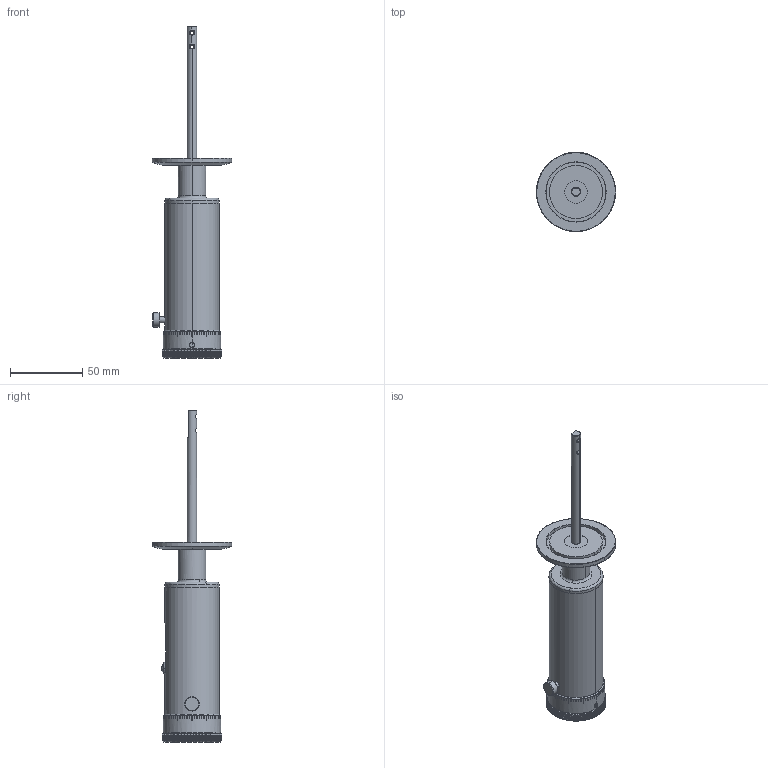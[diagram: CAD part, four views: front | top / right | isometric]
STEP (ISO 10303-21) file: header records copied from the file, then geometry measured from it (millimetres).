
FILE_DESCRIPTION (( 'STEP AP203' ), '1' );
FILE_NAME ('102270.stp', '2019-04-09T15:58:28', ( '' ), ( '' ), 'SwSTEP 2.0', 'SolidWorks 2012', '' );
FILE_SCHEMA (( 'CONFIG_CONTROL_DESIGN' ));
Products named in the file (1): 102270
Bounding box: 54.86 x 54.86 x 229.79 mm (x, y, z)
Volume: 144038.5 mm3; surface area: 25357.1 mm2
Topology: 1 solids, 1 shells, 1004 faces, 2857 edges, 1890 vertices
Faces by surface type: plane 509, cylinder 307, bspline 153, cone 35
Entity records: 58150 total; most frequent: CARTESIAN_POINT 33859, ORIENTED_EDGE 5710, DIRECTION 4200, EDGE_CURVE 2855, VERTEX_POINT 1890, AXIS2_PLACEMENT_3D 1561, LINE 1078, VECTOR 1078
